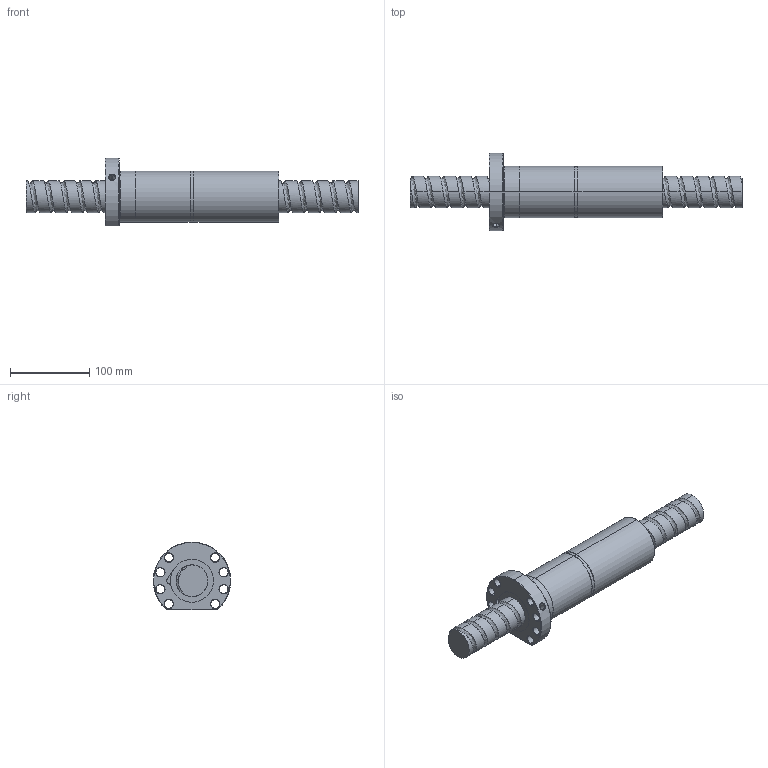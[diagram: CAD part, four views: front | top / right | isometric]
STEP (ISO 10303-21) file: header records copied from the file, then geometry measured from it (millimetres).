
FILE_DESCRIPTION (( 'STEP AP214' ), '1' );
FILE_NAME ('FDDC04020T4-F-B.STEP', '2010-07-07T02:13:38', ( 'XPAUTO' ), ( 'XPAUTO' ), 'SwSTEP 2.0', 'SolidWorks 2007', '' );
FILE_SCHEMA (( 'AUTOMOTIVE_DESIGN' ));
Length unit declared in the file: millimetre
Products named in the file (3): FDDC04020T4-F-B.sldasm-Part-2_預設; FDDC04020T4-F-B; FDDC04020T4-F-B.sldasm-Part-1_預設
Assembly tree (2 placements, depth 2):
  FDDC04020T4-F-B
    FDDC04020T4-F-B.sldasm-Part-1_預設
    FDDC04020T4-F-B.sldasm-Part-2_預設
Bounding box: 420 x 97.99 x 86 mm (x, y, z)
Volume: 1010793.3 mm3; surface area: 152199.3 mm2
Topology: 2 solids, 2 shells, 175 faces, 443 edges, 278 vertices
Faces by surface type: cylinder 109, cone 32, plane 19, torus 9, bspline 6
Entity records: 41008 total; most frequent: CARTESIAN_POINT 36883, ORIENTED_EDGE 886, DIRECTION 783, EDGE_CURVE 443, AXIS2_PLACEMENT_3D 315, VERTEX_POINT 278, EDGE_LOOP 199, FACE_OUTER_BOUND 175
